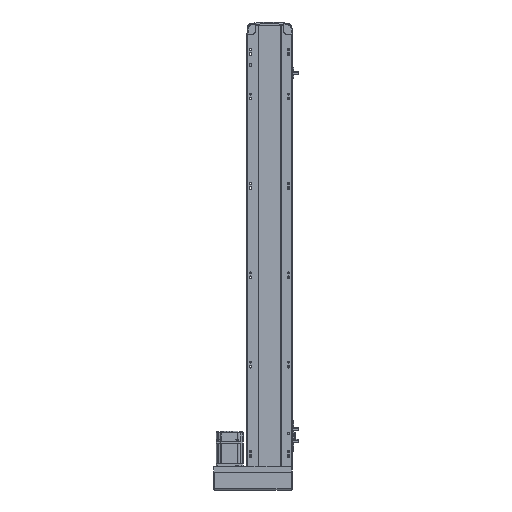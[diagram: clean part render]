
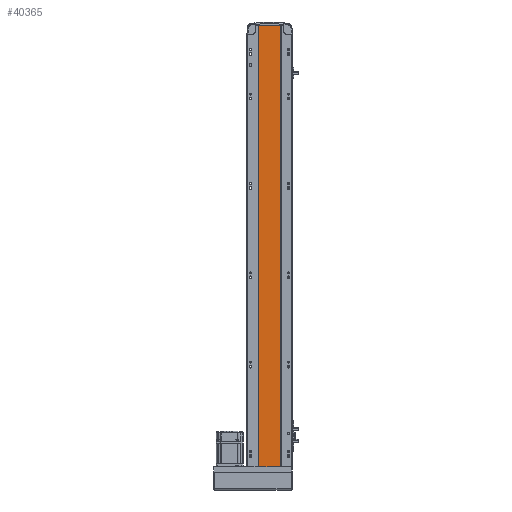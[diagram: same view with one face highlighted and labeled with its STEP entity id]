
A CAD part, front view. The second image highlights one B-rep face of the part: STEP entity #40365.
In plain terms, the highlighted planar face has unit normal (0, -1, 0).
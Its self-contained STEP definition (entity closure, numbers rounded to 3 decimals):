
#881 = DIRECTION ( 'NONE',  ( 0., 0., 1. ) ) ;
#2378 = LINE ( 'NONE', #21529, #25879 ) ;
#5544 = ORIENTED_EDGE ( 'NONE', *, *, #8542, .T. ) ;
#6964 = CARTESIAN_POINT ( 'NONE',  ( -24.5, 2., 987. ) ) ;
#7678 = VECTOR ( 'NONE', #49847, 1000. ) ;
#8542 = EDGE_CURVE ( 'NONE', #37614, #42848, #15559, .T. ) ;
#8946 = VECTOR ( 'NONE', #17034, 1000. ) ;
#9250 = CARTESIAN_POINT ( 'NONE',  ( 0., 2., 0. ) ) ;
#10298 = CARTESIAN_POINT ( 'NONE',  ( 0., 2., 987. ) ) ;
#10496 = DIRECTION ( 'NONE',  ( 0., 1., 0. ) ) ;
#13586 = LINE ( 'NONE', #9250, #7678 ) ;
#14208 = ORIENTED_EDGE ( 'NONE', *, *, #31516, .F. ) ;
#15559 = LINE ( 'NONE', #6964, #8946 ) ;
#17034 = DIRECTION ( 'NONE',  ( 0., 0., -1. ) ) ;
#21417 = CARTESIAN_POINT ( 'NONE',  ( -24.5, 2., 987. ) ) ;
#21529 = CARTESIAN_POINT ( 'NONE',  ( 24.5, 2., 987. ) ) ;
#22747 = AXIS2_PLACEMENT_3D ( 'NONE', #10298, #10496, #881 ) ;
#25879 = VECTOR ( 'NONE', #54266, 1000. ) ;
#29026 = PLANE ( 'NONE',  #22747 ) ;
#29159 = VECTOR ( 'NONE', #31688, 1000. ) ;
#31516 = EDGE_CURVE ( 'NONE', #37614, #60782, #56981, .T. ) ;
#31688 = DIRECTION ( 'NONE',  ( 1., 0., 0. ) ) ;
#37237 = ORIENTED_EDGE ( 'NONE', *, *, #39855, .T. ) ;
#37614 = VERTEX_POINT ( 'NONE', #56151 ) ;
#37721 = CARTESIAN_POINT ( 'NONE',  ( -24.5, 2., 0. ) ) ;
#39855 = EDGE_CURVE ( 'NONE', #42848, #59752, #13586, .T. ) ;
#40365 = ADVANCED_FACE ( 'NONE', ( #51719 ), #29026, .F. ) ;
#42731 = EDGE_LOOP ( 'NONE', ( #37237, #57061, #14208, #5544 ) ) ;
#42848 = VERTEX_POINT ( 'NONE', #37721 ) ;
#49847 = DIRECTION ( 'NONE',  ( 1., 0., 0. ) ) ;
#50260 = CARTESIAN_POINT ( 'NONE',  ( 24.5, 2., 0. ) ) ;
#51719 = FACE_OUTER_BOUND ( 'NONE', #42731, .T. ) ;
#54266 = DIRECTION ( 'NONE',  ( 0., 0., -1. ) ) ;
#56151 = CARTESIAN_POINT ( 'NONE',  ( -24.5, 2., 987. ) ) ;
#56568 = CARTESIAN_POINT ( 'NONE',  ( 24.5, 2., 987. ) ) ;
#56981 = LINE ( 'NONE', #21417, #29159 ) ;
#57061 = ORIENTED_EDGE ( 'NONE', *, *, #57227, .F. ) ;
#57227 = EDGE_CURVE ( 'NONE', #60782, #59752, #2378, .T. ) ;
#59752 = VERTEX_POINT ( 'NONE', #50260 ) ;
#60782 = VERTEX_POINT ( 'NONE', #56568 ) ;
